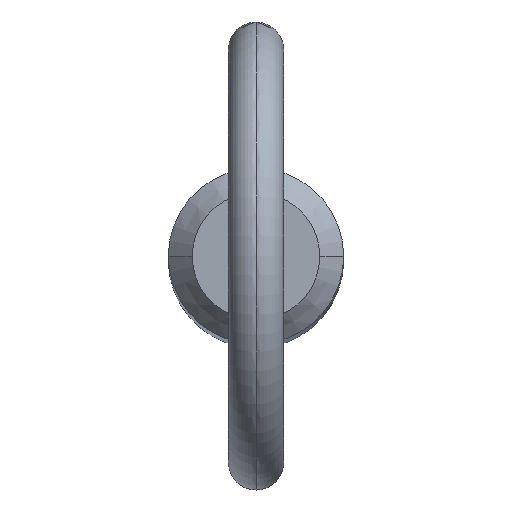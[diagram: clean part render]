
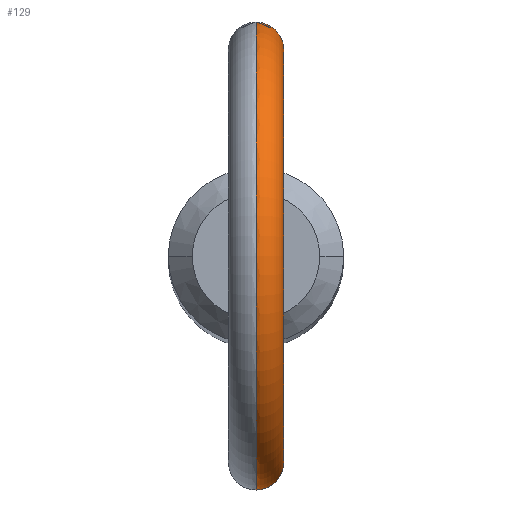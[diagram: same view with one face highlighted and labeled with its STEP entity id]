
A CAD part, top view. The second image highlights one B-rep face of the part: STEP entity #129.
In plain terms, the highlighted toroidal (fillet/blend) face has major radius 11.2 mm and minor radius 1.5 mm.
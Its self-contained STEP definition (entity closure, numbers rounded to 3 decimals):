
#7 = CARTESIAN_POINT ( 'NONE',  ( 0., 4.76, 113.448 ) ) ;
#8 = CIRCLE ( 'NONE', #361, 12.7 ) ;
#20 = CARTESIAN_POINT ( 'NONE',  ( 1.499, -4.518, 111.537 ) ) ;
#24 = CARTESIAN_POINT ( 'NONE',  ( 0.512, -4.733, 110.208 ) ) ;
#29 = CARTESIAN_POINT ( 'NONE',  ( 1.508, 4.515, 111.537 ) ) ;
#32 = CARTESIAN_POINT ( 'NONE',  ( 0., 0., 121.9 ) ) ;
#36 = CARTESIAN_POINT ( 'NONE',  ( 0., 0., 121.9 ) ) ;
#38 = CARTESIAN_POINT ( 'NONE',  ( 0.685, 4.711, 113.236 ) ) ;
#43 = CARTESIAN_POINT ( 'NONE',  ( 0.771, 4.698, 113.175 ) ) ;
#56 = CARTESIAN_POINT ( 'NONE',  ( 0.207, 4.757, 110.136 ) ) ;
#63 = CARTESIAN_POINT ( 'NONE',  ( 0.209, -4.756, 113.434 ) ) ;
#71 = CARTESIAN_POINT ( 'NONE',  ( 0., -4.76, 110.126 ) ) ;
#75 = CARTESIAN_POINT ( 'NONE',  ( 1.441, 4.537, 112.159 ) ) ;
#80 = DIRECTION ( 'NONE',  ( 0., 0., -1. ) ) ;
#94 = CARTESIAN_POINT ( 'NONE',  ( 0.104, 4.76, 110.126 ) ) ;
#95 = CARTESIAN_POINT ( 'NONE',  ( 0.511, 4.733, 110.208 ) ) ;
#97 = CARTESIAN_POINT ( 'NONE',  ( 0., -4.76, 113.448 ) ) ;
#99 = AXIS2_PLACEMENT_3D ( 'NONE', #32, #359, #394 ) ;
#100 = CIRCLE ( 'NONE', #99, 9.7 ) ;
#107 = CARTESIAN_POINT ( 'NONE',  ( 1.478, -4.525, 111.952 ) ) ;
#115 = CARTESIAN_POINT ( 'NONE',  ( 1.292, 4.582, 112.544 ) ) ;
#120 = EDGE_CURVE ( 'NONE', #363, #225, #260, .T. ) ;
#125 = CARTESIAN_POINT ( 'NONE',  ( 0.208, 4.76, 113.448 ) ) ;
#129 = ADVANCED_FACE ( 'NONE', ( #207 ), #521, .T. ) ;
#133 = CARTESIAN_POINT ( 'NONE',  ( 0.411, 4.743, 110.177 ) ) ;
#148 = CARTESIAN_POINT ( 'NONE',  ( 0., 0., 121.9 ) ) ;
#150 = CARTESIAN_POINT ( 'NONE',  ( 1.178, -4.613, 110.676 ) ) ;
#155 = CARTESIAN_POINT ( 'NONE',  ( 0., -4.76, 113.448 ) ) ;
#156 = CARTESIAN_POINT ( 'NONE',  ( 1.188, 4.611, 112.727 ) ) ;
#161 = ORIENTED_EDGE ( 'NONE', *, *, #418, .F. ) ;
#172 = ORIENTED_EDGE ( 'NONE', *, *, #362, .F. ) ;
#189 = CARTESIAN_POINT ( 'NONE',  ( 0.105, -4.76, 110.126 ) ) ;
#193 = CARTESIAN_POINT ( 'NONE',  ( 1.293, -4.582, 112.542 ) ) ;
#194 = ORIENTED_EDGE ( 'NONE', *, *, #335, .T. ) ;
#197 = CARTESIAN_POINT ( 'NONE',  ( 0.77, -4.698, 113.175 ) ) ;
#201 = CARTESIAN_POINT ( 'NONE',  ( 1.343, 4.567, 110.937 ) ) ;
#203 = ORIENTED_EDGE ( 'NONE', *, *, #120, .F. ) ;
#207 = FACE_OUTER_BOUND ( 'NONE', #348, .T. ) ;
#225 = VERTEX_POINT ( 'NONE', #7 ) ;
#236 = CARTESIAN_POINT ( 'NONE',  ( 1.24, -4.596, 110.76 ) ) ;
#239 = CARTESIAN_POINT ( 'NONE',  ( 0.925, -4.67, 113.039 ) ) ;
#242 = CARTESIAN_POINT ( 'NONE',  ( 1.404, -4.548, 112.253 ) ) ;
#243 = CARTESIAN_POINT ( 'NONE',  ( 0.925, 4.67, 113.04 ) ) ;
#244 = CARTESIAN_POINT ( 'NONE',  ( 0.968, 4.663, 110.449 ) ) ;
#248 = CARTESIAN_POINT ( 'NONE',  ( 0.415, 4.745, 113.388 ) ) ;
#260 = B_SPLINE_CURVE_WITH_KNOTS ( 'NONE', 3,
 ( #485, #94, #56, #133, #95, #477, #244, #430, #284, #201, #473, #517, #29, #316, #75, #115, #156, #474, #243, #43, #38, #248, #125, #442 ),
 .UNSPECIFIED., .F., .F.,
 ( 4, 2, 2, 2, 2, 2, 2, 2, 2, 2, 2, 4 ),
 ( 0.001, 0.001, 0.001, 0.002, 0.002, 0.002, 0.003, 0.004, 0.004, 0.005, 0.005, 0.006 ),
 .UNSPECIFIED. ) ;
#275 = CARTESIAN_POINT ( 'NONE',  ( 1.385, -4.554, 111.032 ) ) ;
#280 = AXIS2_PLACEMENT_3D ( 'NONE', #36, #435, #80 ) ;
#284 = CARTESIAN_POINT ( 'NONE',  ( 1.239, 4.596, 110.759 ) ) ;
#297 = VERTEX_POINT ( 'NONE', #97 ) ;
#299 = B_SPLINE_CURVE_WITH_KNOTS ( 'NONE', 3,
 ( #155, #314, #63, #470, #382, #354, #197, #239, #383, #423, #193, #242, #511, #107, #388, #385, #20, #352, #381, #275, #347, #236, #150, #427, #514, #24, #464, #505, #189, #71 ),
 .UNSPECIFIED., .F., .F.,
 ( 4, 2, 2, 2, 2, 2, 2, 2, 2, 2, 2, 2, 2, 2, 4 ),
 ( 0.004, 0.005, 0.005, 0.005, 0.006, 0.006, 0.007, 0.007, 0.007, 0.007, 0.008, 0.008, 0.009, 0.009, 0.009 ),
 .UNSPECIFIED. ) ;
#314 = CARTESIAN_POINT ( 'NONE',  ( 0.104, -4.76, 113.448 ) ) ;
#316 = CARTESIAN_POINT ( 'NONE',  ( 1.487, 4.522, 111.953 ) ) ;
#335 = EDGE_CURVE ( 'NONE', #363, #349, #8, .T. ) ;
#347 = CARTESIAN_POINT ( 'NONE',  ( 1.344, -4.567, 110.939 ) ) ;
#348 = EDGE_LOOP ( 'NONE', ( #203, #194, #172, #161 ) ) ;
#349 = VERTEX_POINT ( 'NONE', #462 ) ;
#352 = CARTESIAN_POINT ( 'NONE',  ( 1.473, -4.526, 111.331 ) ) ;
#354 = CARTESIAN_POINT ( 'NONE',  ( 0.687, -4.711, 113.235 ) ) ;
#356 = DIRECTION ( 'NONE',  ( 1., 0., 0. ) ) ;
#359 = DIRECTION ( 'NONE',  ( 1., 0., 0. ) ) ;
#361 = AXIS2_PLACEMENT_3D ( 'NONE', #148, #356, #420 ) ;
#362 = EDGE_CURVE ( 'NONE', #297, #349, #299, .T. ) ;
#363 = VERTEX_POINT ( 'NONE', #508 ) ;
#381 = CARTESIAN_POINT ( 'NONE',  ( 1.45, -4.534, 111.228 ) ) ;
#382 = CARTESIAN_POINT ( 'NONE',  ( 0.506, -4.734, 113.337 ) ) ;
#383 = CARTESIAN_POINT ( 'NONE',  ( 0.997, -4.655, 112.964 ) ) ;
#385 = CARTESIAN_POINT ( 'NONE',  ( 1.503, -4.517, 111.64 ) ) ;
#388 = CARTESIAN_POINT ( 'NONE',  ( 1.492, -4.52, 111.848 ) ) ;
#394 = DIRECTION ( 'NONE',  ( 0., 0., -1. ) ) ;
#418 = EDGE_CURVE ( 'NONE', #225, #297, #100, .T. ) ;
#420 = DIRECTION ( 'NONE',  ( 0., 0., -1. ) ) ;
#423 = CARTESIAN_POINT ( 'NONE',  ( 1.19, -4.611, 112.724 ) ) ;
#427 = CARTESIAN_POINT ( 'NONE',  ( 0.97, -4.662, 110.45 ) ) ;
#430 = CARTESIAN_POINT ( 'NONE',  ( 1.177, 4.613, 110.675 ) ) ;
#435 = DIRECTION ( 'NONE',  ( 1., 0., 0. ) ) ;
#442 = CARTESIAN_POINT ( 'NONE',  ( 0., 4.76, 113.448 ) ) ;
#462 = CARTESIAN_POINT ( 'NONE',  ( 0., -4.76, 110.126 ) ) ;
#464 = CARTESIAN_POINT ( 'NONE',  ( 0.411, -4.743, 110.177 ) ) ;
#470 = CARTESIAN_POINT ( 'NONE',  ( 0.409, -4.743, 113.378 ) ) ;
#473 = CARTESIAN_POINT ( 'NONE',  ( 1.385, 4.554, 111.03 ) ) ;
#474 = CARTESIAN_POINT ( 'NONE',  ( 0.996, 4.655, 112.966 ) ) ;
#477 = CARTESIAN_POINT ( 'NONE',  ( 0.795, 4.697, 110.328 ) ) ;
#485 = CARTESIAN_POINT ( 'NONE',  ( 0., 4.76, 110.126 ) ) ;
#505 = CARTESIAN_POINT ( 'NONE',  ( 0.208, -4.757, 110.136 ) ) ;
#508 = CARTESIAN_POINT ( 'NONE',  ( 0., 4.76, 110.126 ) ) ;
#511 = CARTESIAN_POINT ( 'NONE',  ( 1.434, -4.539, 112.154 ) ) ;
#514 = CARTESIAN_POINT ( 'NONE',  ( 0.797, -4.697, 110.329 ) ) ;
#517 = CARTESIAN_POINT ( 'NONE',  ( 1.484, 4.523, 111.328 ) ) ;
#521 = TOROIDAL_SURFACE ( 'NONE', #280, 11.2, 1.5 ) ;
